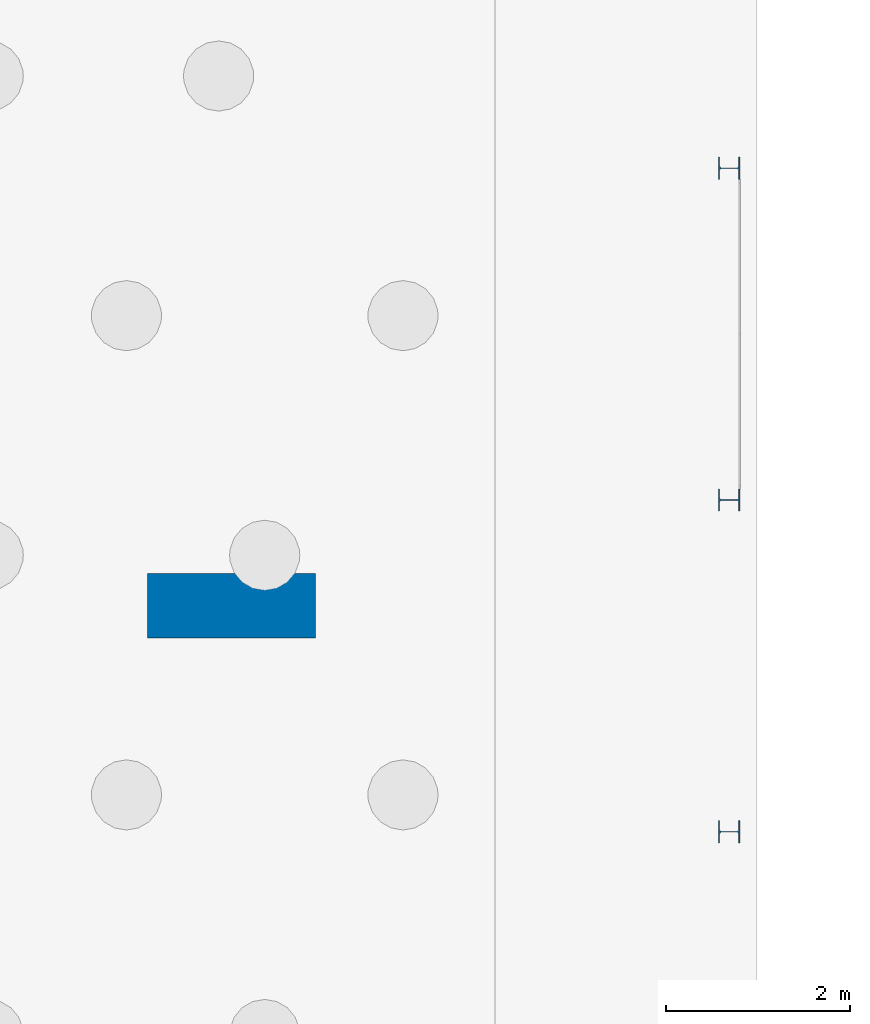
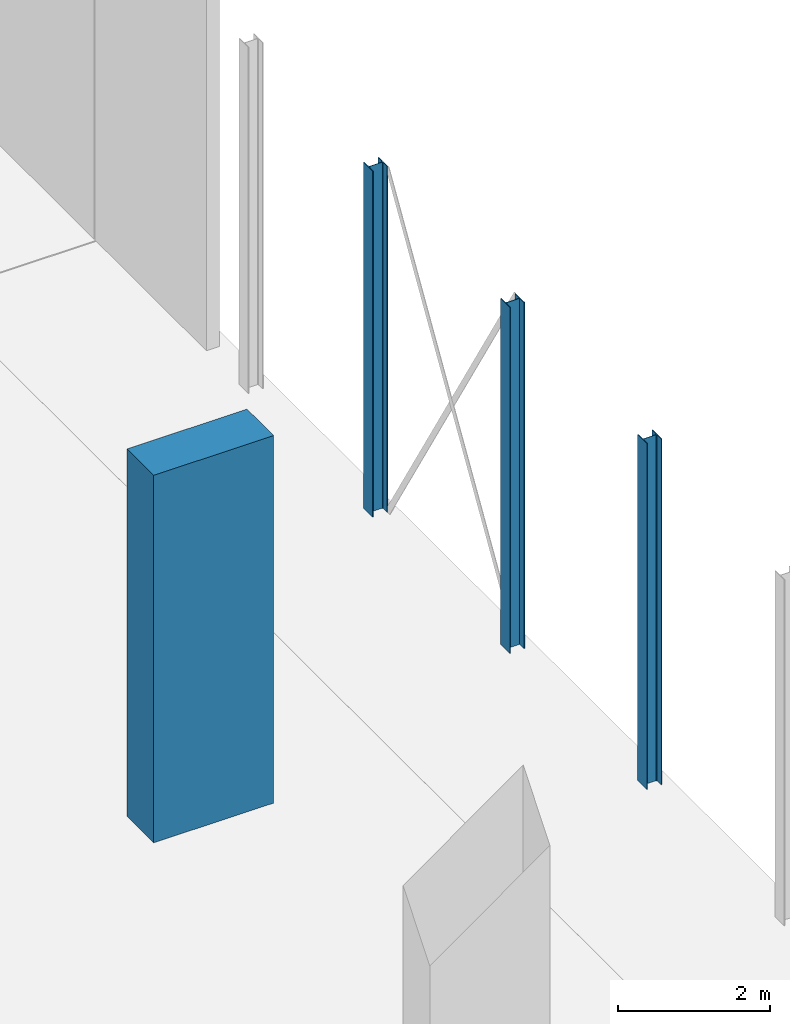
# One storey, part 13 of 26: 4 columns.
"""IFC2X3 building model written with IfcOpenShell, lengths in millimetres."""

from ifc_helpers import new_model, entity, si_unit, converted_unit, derived_unit, direction, frame, frame_2d, origin, origin_2d_with_axis, place, context, subcontext, project, spatial, polyline, circle_curve, parameter, trimmed, segment, composite_curve, rectangle, outline, extrude, source, transform, mapped, material, type_object, type_shapes, element, save


model = new_model("IFC2X3")

# Units and contexts
model_context = context("Model", 3, precision=0.01, world=origin(), true_north=direction((6.12303176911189e-17, 1.0)))
body_context = subcontext(model_context, "Body", "Model", "MODEL_VIEW")
ifc_project = project(units=[si_unit("LENGTHUNIT", "METRE", prefix="MILLI"), si_unit("AREAUNIT", "SQUARE_METRE"), si_unit("VOLUMEUNIT", "CUBIC_METRE"), converted_unit("PLANEANGLEUNIT", "DEGREE", entity("IfcRatioMeasure", 0.0174532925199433), si_unit("PLANEANGLEUNIT", "RADIAN"), dimensions=[0, 0, 0, 0, 0, 0, 0]), si_unit("MASSUNIT", "GRAM", prefix="KILO"), derived_unit("MASSDENSITYUNIT", [(si_unit("MASSUNIT", "GRAM", prefix="KILO"), 1), (si_unit("LENGTHUNIT", "METRE"), -3)]), si_unit("TIMEUNIT", "SECOND"), si_unit("FREQUENCYUNIT", "HERTZ"), si_unit("THERMODYNAMICTEMPERATUREUNIT", "DEGREE_CELSIUS"), derived_unit("THERMALTRANSMITTANCEUNIT", [(si_unit("MASSUNIT", "GRAM", prefix="KILO"), 1), (si_unit("THERMODYNAMICTEMPERATUREUNIT", "KELVIN"), -1), (si_unit("TIMEUNIT", "SECOND"), -3)]), derived_unit("VOLUMETRICFLOWRATEUNIT", [(si_unit("LENGTHUNIT", "METRE"), 3), (si_unit("TIMEUNIT", "SECOND"), -1)]), si_unit("ELECTRICCURRENTUNIT", "AMPERE"), si_unit("ELECTRICVOLTAGEUNIT", "VOLT"), si_unit("POWERUNIT", "WATT"), si_unit("FORCEUNIT", "NEWTON", prefix="KILO"), si_unit("ILLUMINANCEUNIT", "LUX"), si_unit("LUMINOUSFLUXUNIT", "LUMEN"), si_unit("LUMINOUSINTENSITYUNIT", "CANDELA"), derived_unit("USERDEFINED", [(si_unit("MASSUNIT", "GRAM", prefix="KILO"), -1), (si_unit("LENGTHUNIT", "METRE"), -2), (si_unit("TIMEUNIT", "SECOND"), 3), (si_unit("LUMINOUSFLUXUNIT", "LUMEN"), 1)]), derived_unit("LINEARVELOCITYUNIT", [(si_unit("LENGTHUNIT", "METRE"), 1), (si_unit("TIMEUNIT", "SECOND"), -1)]), si_unit("PRESSUREUNIT", "PASCAL"), derived_unit("USERDEFINED", [(si_unit("LENGTHUNIT", "METRE"), -2), (si_unit("MASSUNIT", "GRAM", prefix="KILO"), 1), (si_unit("TIMEUNIT", "SECOND"), -2)])], contexts=[model_context])

# Site, building, storey
site_placement = place(None, origin())
site = spatial("IfcSite", under=ifc_project, at=site_placement, Name="Default", CompositionType="ELEMENT")
building_placement = place(site_placement, origin())
building = spatial("IfcBuilding", under=site, at=building_placement, Name="niet gebruiken", CompositionType="ELEMENT")
storey_placement = place(building_placement, origin())
storey = spatial("IfcBuildingStorey", under=building, at=storey_placement, Name="00 begane grond", CompositionType="ELEMENT", Elevation=0.0)

# Columns
ifc_material_1 = material(Name="NLRS_f2_beton ihwg")
column_type_1 = type_object("IfcColumnType", Name="700x1820", PredefinedType="COLUMN", material=ifc_material_1)
shared_shape_1 = source(origin(), body_context, "Body", "SweptSolid", [
    extrude(rectangle(XDim=700.000000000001, YDim=1820.0, at=origin_2d_with_axis()), frame((157890.0, 24750.0, -250.0), z_axis=(0.0, 0.0, 1.0), x_axis=(0.0, -1.0, 0.0)), (0.0, 0.0, 1.0), 5890.0),
])
type_shapes(column_type_1, [shared_shape_1])
column_placement = place(storey_placement, origin())
element("IfcColumn", 1, at=column_placement, inside=storey, type_object=column_type_1, material=ifc_material_1, Name="NLRS_28.11_SCO_TLB_beton kolom ihwg_gen:700x1820", ObjectType="700x1820", context=body_context, shape_type="MappedRepresentation", body=[
    mapped(shared_shape_1, transform((0.0, 0.0, 0.0), scale=1.0)),
])
ifc_material_2 = material(Name="NLRS_h2_staal")
column_type_2 = type_object("IfcColumnType", Name="kolom HEA 240", PredefinedType="COLUMN", material=ifc_material_2)
shared_shape_2 = source(origin(), body_context, "Body", "SweptSolid", [
    extrude(outline(composite_curve([segment(polyline([(103.0, -120.0), (115.0, -120.0)]), True, "CONTINUOUS"), segment(polyline([(115.0, -120.0), (115.0, 120.0)]), True, "CONTINUOUS"), segment(polyline([(115.0, 120.0), (103.0, 120.0)]), True, "CONTINUOUS"), segment(polyline([(103.0, 120.0), (103.0, 24.7499999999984)]), True, "CONTINUOUS"), segment(trimmed(circle_curve(frame_2d((82.0, 24.7499999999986), x_axis=(1.0, 0.0)), 21.0), [parameter(270.0)], [parameter(0.0)], True, "PARAMETER"), False, "CONTINUOUS"), segment(polyline([(82.0, 3.74999999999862), (-82.0, 3.74999999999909)]), True, "CONTINUOUS"), segment(trimmed(circle_curve(frame_2d((-82.0, 24.7499999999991), x_axis=(0.0, -1.0)), 21.0), [parameter(270.0)], [parameter(0.0)], True, "PARAMETER"), False, "CONTINUOUS"), segment(polyline([(-103.0, 24.7499999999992), (-103.0, 120.0)]), True, "CONTINUOUS"), segment(polyline([(-103.0, 120.0), (-115.0, 120.0)]), True, "CONTINUOUS"), segment(polyline([(-115.0, 120.0), (-115.0, -120.0)]), True, "CONTINUOUS"), segment(polyline([(-115.0, -120.0), (-103.0, -120.0)]), True, "CONTINUOUS"), segment(polyline([(-103.0, -120.0), (-103.0, -24.7500000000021)]), True, "CONTINUOUS"), segment(trimmed(circle_curve(frame_2d((-82.0, -24.7500000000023), x_axis=(-1.0, 0.0)), 21.0), [parameter(270.0)], [parameter(0.0)], True, "PARAMETER"), False, "CONTINUOUS"), segment(polyline([(-82.0, -3.75000000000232), (82.0, -3.75000000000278)]), True, "CONTINUOUS"), segment(trimmed(circle_curve(frame_2d((82.0, -24.7500000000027), x_axis=(0.0, 1.0)), 21.0), [parameter(270.0)], [parameter(0.0)], True, "PARAMETER"), False, "CONTINUOUS"), segment(polyline([(103.0, -24.7500000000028), (103.0, -120.0)]), True, "CONTINUOUS")], self_intersect=False)), frame((0.0, 0.0, -220.0), z_axis=(0.0, 0.0, 1.0), x_axis=(0.0, -1.0, 0.0)), (0.0, 0.0, 1.0), 5545.0),
])
type_shapes(column_type_2, [shared_shape_2])
for number, where, z_axis, x_axis, name in (
    (2, (163290.0, 22300.0, 0.0), (0.0, 0.0, 1.0), (0.0, 1.0, 0.0), "NLRS_28.11_SCO_TLB_stalen kolom HEA_gen:kolom HEA 240"),
    (3, (163290.0, 25900.0, 0.0), (0.0, 0.0, 1.0), (0.0, 1.0, 0.0), "NLRS_28.11_SCO_TLB_stalen kolom HEA_gen:kolom HEA 240"),
    (4, (163290.0, 29500.0, 0.0), (0.0, 0.0, 1.0), (0.0, 1.0, 0.0), "NLRS_28.11_SCO_TLB_stalen kolom HEA_gen:kolom HEA 240"),
):
    element("IfcColumn", number, at=place(storey_placement, frame(where, z_axis=z_axis, x_axis=x_axis)), inside=storey, type_object=column_type_2, material=ifc_material_2, Name=name, ObjectType="kolom HEA 240", context=body_context, shape_type="MappedRepresentation", body=[
        mapped(shared_shape_2, transform((0.0, 0.0, 0.0), scale=1.0)),
    ])

save(model, "model.ifc")
